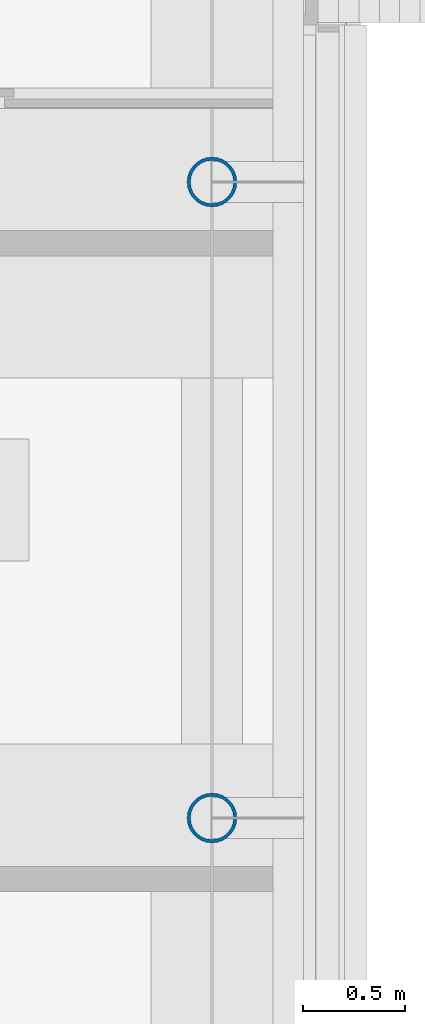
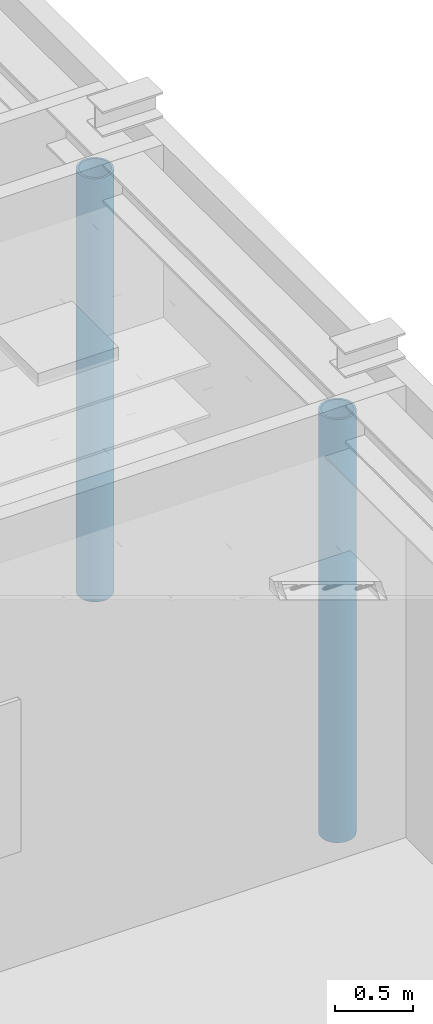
# One storey, part 22 of 347: 2 columns.
"""IFC2X3 building model written with IfcOpenShell, lengths in millimetres."""

from ifc_helpers import new_model, entity, si_unit, converted_unit, derived_unit, money_unit, direction, frame, origin_with_axes, place, context, subcontext, project, spatial, faceted_brep, material, type_object, element, save


model = new_model("IFC2X3")

# Units and contexts
model_context = context("Model", 3, precision=0.01, world=origin_with_axes(), true_north=direction((0.0, 1.0)))
plan_context = context("Plan", 3, precision=0.01, world=origin_with_axes(), true_north=direction((0.0, 1.0)))
body_context = subcontext(model_context, "Body", "Model", "MODEL_VIEW")
ifc_project = project(units=[si_unit("LENGTHUNIT", "METRE", prefix="MILLI"), si_unit("AREAUNIT", "SQUARE_METRE"), si_unit("VOLUMEUNIT", "CUBIC_METRE"), converted_unit("PLANEANGLEUNIT", "DEGREE", entity("IfcPlaneAngleMeasure", 0.0174532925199), si_unit("PLANEANGLEUNIT", "RADIAN"), dimensions=[0, 0, 0, 0, 0, 0, 0]), money_unit("EUR"), converted_unit("TIMEUNIT", "Year", entity("IfcTimeMeasure", 31556926.0), si_unit("TIMEUNIT", "SECOND"), dimensions=[0, 0, 1, 0, 0, 0, 0]), si_unit("MASSUNIT", "GRAM", prefix="KILO"), si_unit("THERMODYNAMICTEMPERATUREUNIT", "DEGREE_CELSIUS"), si_unit("LUMINOUSINTENSITYUNIT", "LUMEN"), si_unit("ENERGYUNIT", "JOULE", prefix="MEGA"), derived_unit("THERMALCONDUCTANCEUNIT", [(si_unit("POWERUNIT", "WATT"), 1), (si_unit("LENGTHUNIT", "METRE"), -1), (si_unit("THERMODYNAMICTEMPERATUREUNIT", "KELVIN"), -1)]), derived_unit("SPECIFICHEATCAPACITYUNIT", [(si_unit("ENERGYUNIT", "JOULE"), 1), (si_unit("MASSUNIT", "GRAM", prefix="KILO"), -1), (si_unit("THERMODYNAMICTEMPERATUREUNIT", "KELVIN"), -1)]), derived_unit("MASSDENSITYUNIT", [(si_unit("MASSUNIT", "GRAM", prefix="KILO"), 1), (si_unit("VOLUMEUNIT", "CUBIC_METRE"), -1)])], contexts=[model_context, plan_context])

# Site, building, storey
site_placement = place(None, origin_with_axes())
site = spatial("IfcSite", under=ifc_project, at=site_placement, Name="Site", CompositionType="ELEMENT")
building_placement = place(site_placement, origin_with_axes())
building = spatial("IfcBuilding", under=site, at=building_placement, Name="Naam gebouw", CompositionType="ELEMENT")
storey_placement = place(building_placement, origin_with_axes())
storey = spatial("IfcBuildingStorey", under=building, at=storey_placement, Name="begane grond", CompositionType="ELEMENT", Elevation=0.0)

# Columns
ifc_material = material(Name="Metaal - Staal C wit")
column_type = type_object("IfcColumnType", Name="Lucht D245", PredefinedType="COLUMN")
column_1_placement = place(storey_placement, frame((55575.0, 39325.0, -70.0), z_axis=(0.0, 0.0, 1.0), x_axis=(1.0, 0.0, 0.0)))
element("IfcColumn", 1, at=column_1_placement, inside=storey, type_object=column_type, material=ifc_material, Name="28_kolom ø 273mm", ObjectType="COLUMN", context=body_context, shape_type="Brep", body=[
    faceted_brep([(-122.25, 0.0, 0.0), (-119.184937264, -27.2031841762, 0.0), (-119.184937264, -27.2031841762, 3330.0), (-122.25, 0.0, 3330.0), (-119.184937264, 27.2031841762, 0.0), (-110.143444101, 53.0422871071, 0.0), (-95.5788987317, 76.2216282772, 0.0), (-76.2216282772, 95.5788987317, 0.0), (-53.0422871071, 110.143444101, 0.0), (-27.2031841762, 119.184937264, 0.0), (0.0, 122.25, 0.0), (27.2031841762, 119.184937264, 0.0), (53.0422871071, 110.143444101, 0.0), (76.2216282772, 95.5788987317, 0.0), (95.5788987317, 76.2216282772, 0.0), (110.143444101, 53.0422871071, 0.0), (119.184937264, 27.2031841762, 0.0), (122.25, 0.0, 0.0), (119.184937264, -27.2031841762, 0.0), (110.143444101, -53.0422871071, 0.0), (95.5788987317, -76.2216282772, 0.0), (76.2216282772, -95.5788987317, 0.0), (53.0422871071, -110.143444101, 0.0), (27.2031841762, -119.184937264, 0.0), (0.0, -122.25, 0.0), (-27.2031841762, -119.184937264, 0.0), (-53.0422871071, -110.143444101, 0.0), (-76.2216282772, -95.5788987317, 0.0), (-95.5788987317, -76.2216282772, 0.0), (-110.143444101, -53.0422871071, 0.0), (-106.25, 0.0, 0.0), (-102.629619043, -27.4995235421, 0.0), (-92.0151991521, -53.125, 0.0), (-75.1300955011, -75.1300955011, 0.0), (-53.125, -92.0151991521, 0.0), (-27.4995235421, -102.629619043, 0.0), (0.0, -106.25, 0.0), (27.4995235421, -102.629619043, 0.0), (53.125, -92.0151991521, 0.0), (75.1300955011, -75.1300955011, 0.0), (92.0151991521, -53.125, 0.0), (102.629619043, -27.4995235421, 0.0), (106.25, 0.0, 0.0), (102.629619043, 27.4995235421, 0.0), (92.0151991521, 53.125, 0.0), (75.1300955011, 75.1300955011, 0.0), (53.125, 92.0151991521, 0.0), (27.4995235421, 102.629619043, 0.0), (0.0, 106.25, 0.0), (-27.4995235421, 102.629619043, 0.0), (-53.125, 92.0151991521, 0.0), (-75.1300955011, 75.1300955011, 0.0), (-92.0151991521, 53.125, 0.0), (-102.629619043, 27.4995235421, 0.0), (-110.143444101, -53.0422871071, 3330.0), (-95.5788987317, -76.2216282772, 3330.0), (-76.2216282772, -95.5788987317, 3330.0), (-53.0422871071, -110.143444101, 3330.0), (-27.2031841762, -119.184937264, 3330.0), (0.0, -122.25, 3330.0), (27.2031841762, -119.184937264, 3330.0), (53.0422871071, -110.143444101, 3330.0), (76.2216282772, -95.5788987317, 3330.0), (95.5788987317, -76.2216282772, 3330.0), (110.143444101, -53.0422871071, 3330.0), (119.184937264, -27.2031841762, 3330.0), (122.25, 0.0, 3330.0), (119.184937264, 27.2031841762, 3330.0), (110.143444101, 53.0422871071, 3330.0), (95.5788987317, 76.2216282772, 3330.0), (76.2216282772, 95.5788987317, 3330.0), (53.0422871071, 110.143444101, 3330.0), (27.2031841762, 119.184937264, 3330.0), (0.0, 122.25, 3330.0), (-27.2031841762, 119.184937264, 3330.0), (-53.0422871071, 110.143444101, 3330.0), (-76.2216282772, 95.5788987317, 3330.0), (-95.5788987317, 76.2216282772, 3330.0), (-110.143444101, 53.0422871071, 3330.0), (-119.184937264, 27.2031841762, 3330.0), (-106.25, 0.0, 3330.0), (-102.629619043, 27.4995235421, 3330.0), (-92.0151991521, 53.125, 3330.0), (-75.1300955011, 75.1300955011, 3330.0), (-53.125, 92.0151991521, 3330.0), (-27.4995235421, 102.629619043, 3330.0), (0.0, 106.25, 3330.0), (27.4995235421, 102.629619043, 3330.0), (53.125, 92.0151991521, 3330.0), (75.1300955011, 75.1300955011, 3330.0), (92.0151991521, 53.125, 3330.0), (102.629619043, 27.4995235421, 3330.0), (106.25, 0.0, 3330.0), (102.629619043, -27.4995235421, 3330.0), (92.0151991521, -53.125, 3330.0), (75.1300955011, -75.1300955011, 3330.0), (53.125, -92.0151991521, 3330.0), (27.4995235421, -102.629619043, 3330.0), (0.0, -106.25, 3330.0), (-27.4995235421, -102.629619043, 3330.0), (-53.125, -92.0151991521, 3330.0), (-75.1300955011, -75.1300955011, 3330.0), (-92.0151991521, -53.125, 3330.0), (-102.629619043, -27.4995235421, 3330.0)], [[[0, 1, 2, 3]], [[0, 4, 5, 6, 7, 8, 9, 10, 11, 12, 13, 14, 15, 16, 17, 18, 19, 20, 21, 22, 23, 24, 25, 26, 27, 28, 29, 1], [30, 31, 32, 33, 34, 35, 36, 37, 38, 39, 40, 41, 42, 43, 44, 45, 46, 47, 48, 49, 50, 51, 52, 53]], [[1, 29, 54, 2]], [[3, 2, 54, 55, 56, 57, 58, 59, 60, 61, 62, 63, 64, 65, 66, 67, 68, 69, 70, 71, 72, 73, 74, 75, 76, 77, 78, 79], [80, 81, 82, 83, 84, 85, 86, 87, 88, 89, 90, 91, 92, 93, 94, 95, 96, 97, 98, 99, 100, 101, 102, 103]], [[4, 0, 3, 79]], [[5, 4, 79, 78]], [[6, 5, 78, 77]], [[7, 6, 77, 76]], [[8, 7, 76, 75]], [[9, 8, 75, 74]], [[10, 9, 74, 73]], [[11, 10, 73, 72]], [[12, 11, 72, 71]], [[13, 12, 71, 70]], [[14, 13, 70, 69]], [[15, 14, 69, 68]], [[16, 15, 68, 67]], [[17, 16, 67, 66]], [[18, 17, 66, 65]], [[19, 18, 65, 64]], [[20, 19, 64, 63]], [[21, 20, 63, 62]], [[22, 21, 62, 61]], [[23, 22, 61, 60]], [[24, 23, 60, 59]], [[25, 24, 59, 58]], [[26, 25, 58, 57]], [[27, 26, 57, 56]], [[28, 27, 56, 55]], [[29, 28, 55, 54]], [[31, 30, 80, 103]], [[32, 31, 103, 102]], [[33, 32, 102, 101]], [[34, 33, 101, 100]], [[35, 34, 100, 99]], [[36, 35, 99, 98]], [[37, 36, 98, 97]], [[38, 37, 97, 96]], [[39, 38, 96, 95]], [[40, 39, 95, 94]], [[41, 40, 94, 93]], [[42, 41, 93, 92]], [[43, 42, 92, 91]], [[44, 43, 91, 90]], [[45, 44, 90, 89]], [[46, 45, 89, 88]], [[47, 46, 88, 87]], [[48, 47, 87, 86]], [[49, 48, 86, 85]], [[50, 49, 85, 84]], [[51, 50, 84, 83]], [[52, 51, 83, 82]], [[53, 52, 82, 81]], [[30, 53, 81, 80]]]),
])
column_2_placement = place(storey_placement, frame((55575.0, 36200.0, -70.0), z_axis=(0.0, 0.0, 1.0), x_axis=(1.0, 0.0, 0.0)))
element("IfcColumn", 2, at=column_2_placement, inside=storey, type_object=column_type, material=ifc_material, Name="28_kolom ø 273mm", ObjectType="COLUMN", context=body_context, shape_type="Brep", body=[
    faceted_brep([(-122.25, 0.0, 0.0), (-119.184937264, -27.2031841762, 0.0), (-119.184937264, -27.2031841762, 3330.0), (-122.25, 0.0, 3330.0), (-119.184937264, 27.2031841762, 0.0), (-110.143444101, 53.0422871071, 0.0), (-95.5788987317, 76.2216282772, 0.0), (-76.2216282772, 95.5788987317, 0.0), (-53.0422871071, 110.143444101, 0.0), (-27.2031841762, 119.184937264, 0.0), (0.0, 122.25, 0.0), (27.2031841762, 119.184937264, 0.0), (53.0422871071, 110.143444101, 0.0), (76.2216282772, 95.5788987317, 0.0), (95.5788987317, 76.2216282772, 0.0), (110.143444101, 53.0422871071, 0.0), (119.184937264, 27.2031841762, 0.0), (122.25, 0.0, 0.0), (119.184937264, -27.2031841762, 0.0), (110.143444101, -53.0422871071, 0.0), (95.5788987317, -76.2216282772, 0.0), (76.2216282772, -95.5788987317, 0.0), (53.0422871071, -110.143444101, 0.0), (27.2031841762, -119.184937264, 0.0), (0.0, -122.25, 0.0), (-27.2031841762, -119.184937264, 0.0), (-53.0422871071, -110.143444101, 0.0), (-76.2216282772, -95.5788987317, 0.0), (-95.5788987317, -76.2216282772, 0.0), (-110.143444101, -53.0422871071, 0.0), (-106.25, 0.0, 0.0), (-102.629619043, -27.4995235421, 0.0), (-92.0151991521, -53.125, 0.0), (-75.1300955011, -75.1300955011, 0.0), (-53.125, -92.0151991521, 0.0), (-27.4995235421, -102.629619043, 0.0), (0.0, -106.25, 0.0), (27.4995235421, -102.629619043, 0.0), (53.125, -92.0151991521, 0.0), (75.1300955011, -75.1300955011, 0.0), (92.0151991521, -53.125, 0.0), (102.629619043, -27.4995235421, 0.0), (106.25, 0.0, 0.0), (102.629619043, 27.4995235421, 0.0), (92.0151991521, 53.125, 0.0), (75.1300955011, 75.1300955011, 0.0), (53.125, 92.0151991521, 0.0), (27.4995235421, 102.629619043, 0.0), (0.0, 106.25, 0.0), (-27.4995235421, 102.629619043, 0.0), (-53.125, 92.0151991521, 0.0), (-75.1300955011, 75.1300955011, 0.0), (-92.0151991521, 53.125, 0.0), (-102.629619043, 27.4995235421, 0.0), (-110.143444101, -53.0422871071, 3330.0), (-95.5788987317, -76.2216282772, 3330.0), (-76.2216282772, -95.5788987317, 3330.0), (-53.0422871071, -110.143444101, 3330.0), (-27.2031841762, -119.184937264, 3330.0), (0.0, -122.25, 3330.0), (27.2031841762, -119.184937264, 3330.0), (53.0422871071, -110.143444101, 3330.0), (76.2216282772, -95.5788987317, 3330.0), (95.5788987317, -76.2216282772, 3330.0), (110.143444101, -53.0422871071, 3330.0), (119.184937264, -27.2031841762, 3330.0), (122.25, 0.0, 3330.0), (119.184937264, 27.2031841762, 3330.0), (110.143444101, 53.0422871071, 3330.0), (95.5788987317, 76.2216282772, 3330.0), (76.2216282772, 95.5788987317, 3330.0), (53.0422871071, 110.143444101, 3330.0), (27.2031841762, 119.184937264, 3330.0), (0.0, 122.25, 3330.0), (-27.2031841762, 119.184937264, 3330.0), (-53.0422871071, 110.143444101, 3330.0), (-76.2216282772, 95.5788987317, 3330.0), (-95.5788987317, 76.2216282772, 3330.0), (-110.143444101, 53.0422871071, 3330.0), (-119.184937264, 27.2031841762, 3330.0), (-106.25, 0.0, 3330.0), (-102.629619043, 27.4995235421, 3330.0), (-92.0151991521, 53.125, 3330.0), (-75.1300955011, 75.1300955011, 3330.0), (-53.125, 92.0151991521, 3330.0), (-27.4995235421, 102.629619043, 3330.0), (0.0, 106.25, 3330.0), (27.4995235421, 102.629619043, 3330.0), (53.125, 92.0151991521, 3330.0), (75.1300955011, 75.1300955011, 3330.0), (92.0151991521, 53.125, 3330.0), (102.629619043, 27.4995235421, 3330.0), (106.25, 0.0, 3330.0), (102.629619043, -27.4995235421, 3330.0), (92.0151991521, -53.125, 3330.0), (75.1300955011, -75.1300955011, 3330.0), (53.125, -92.0151991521, 3330.0), (27.4995235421, -102.629619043, 3330.0), (0.0, -106.25, 3330.0), (-27.4995235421, -102.629619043, 3330.0), (-53.125, -92.0151991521, 3330.0), (-75.1300955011, -75.1300955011, 3330.0), (-92.0151991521, -53.125, 3330.0), (-102.629619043, -27.4995235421, 3330.0)], [[[0, 1, 2, 3]], [[0, 4, 5, 6, 7, 8, 9, 10, 11, 12, 13, 14, 15, 16, 17, 18, 19, 20, 21, 22, 23, 24, 25, 26, 27, 28, 29, 1], [30, 31, 32, 33, 34, 35, 36, 37, 38, 39, 40, 41, 42, 43, 44, 45, 46, 47, 48, 49, 50, 51, 52, 53]], [[1, 29, 54, 2]], [[3, 2, 54, 55, 56, 57, 58, 59, 60, 61, 62, 63, 64, 65, 66, 67, 68, 69, 70, 71, 72, 73, 74, 75, 76, 77, 78, 79], [80, 81, 82, 83, 84, 85, 86, 87, 88, 89, 90, 91, 92, 93, 94, 95, 96, 97, 98, 99, 100, 101, 102, 103]], [[4, 0, 3, 79]], [[5, 4, 79, 78]], [[6, 5, 78, 77]], [[7, 6, 77, 76]], [[8, 7, 76, 75]], [[9, 8, 75, 74]], [[10, 9, 74, 73]], [[11, 10, 73, 72]], [[12, 11, 72, 71]], [[13, 12, 71, 70]], [[14, 13, 70, 69]], [[15, 14, 69, 68]], [[16, 15, 68, 67]], [[17, 16, 67, 66]], [[18, 17, 66, 65]], [[19, 18, 65, 64]], [[20, 19, 64, 63]], [[21, 20, 63, 62]], [[22, 21, 62, 61]], [[23, 22, 61, 60]], [[24, 23, 60, 59]], [[25, 24, 59, 58]], [[26, 25, 58, 57]], [[27, 26, 57, 56]], [[28, 27, 56, 55]], [[29, 28, 55, 54]], [[31, 30, 80, 103]], [[32, 31, 103, 102]], [[33, 32, 102, 101]], [[34, 33, 101, 100]], [[35, 34, 100, 99]], [[36, 35, 99, 98]], [[37, 36, 98, 97]], [[38, 37, 97, 96]], [[39, 38, 96, 95]], [[40, 39, 95, 94]], [[41, 40, 94, 93]], [[42, 41, 93, 92]], [[43, 42, 92, 91]], [[44, 43, 91, 90]], [[45, 44, 90, 89]], [[46, 45, 89, 88]], [[47, 46, 88, 87]], [[48, 47, 87, 86]], [[49, 48, 86, 85]], [[50, 49, 85, 84]], [[51, 50, 84, 83]], [[52, 51, 83, 82]], [[53, 52, 82, 81]], [[30, 53, 81, 80]]]),
])

save(model, "model.ifc")
